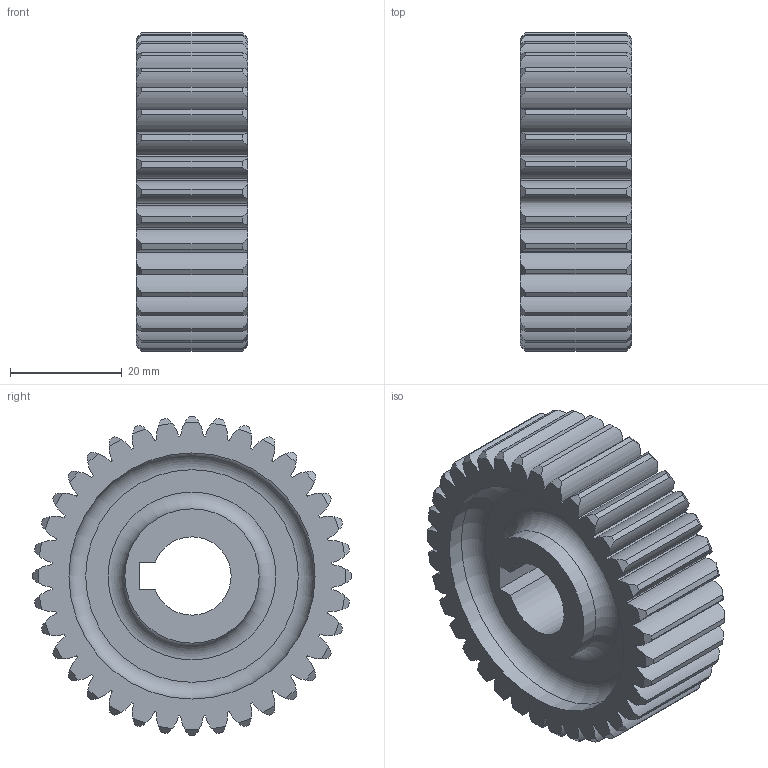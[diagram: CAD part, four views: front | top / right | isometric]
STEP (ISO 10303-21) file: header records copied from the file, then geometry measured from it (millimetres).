
FILE_DESCRIPTION(/* description */ (''),/* implementation_level */ '2;1');
FILE_NAME(/* name */ '',/* time_stamp */ '2023-12-16T11:58:55+09:00',/* author */ ('com'),/* organization */ (''),/* preprocessor_version */ 'ST-DEVELOPER v19.2',/* originating_system */ 'Autodesk Inventor 2024',/* authorisation */ '');
FILE_SCHEMA (('AUTOMOTIVE_DESIGN { 1 0 10303 214 3 1 1 }'));
Length unit declared in the file: millimetre
Products named in the file (1): 부품1
Bounding box: 20 x 57 x 57 mm (x, y, z)
Volume: 31516.3 mm3; surface area: 13755.6 mm2
Topology: 1 solids, 1 shells, 236 faces, 690 edges, 460 vertices
Faces by surface type: plane 118, cylinder 113, torus 4, cone 1
Full cylindrical faces by diameter (mm): 24 x2, 44 x2
Entity records: 8082 total; most frequent: DIRECTION 1545, CARTESIAN_POINT 1391, ORIENTED_EDGE 1380, EDGE_CURVE 690, AXIS2_PLACEMENT_3D 620, VERTEX_POINT 460, LINE 305, VECTOR 305
